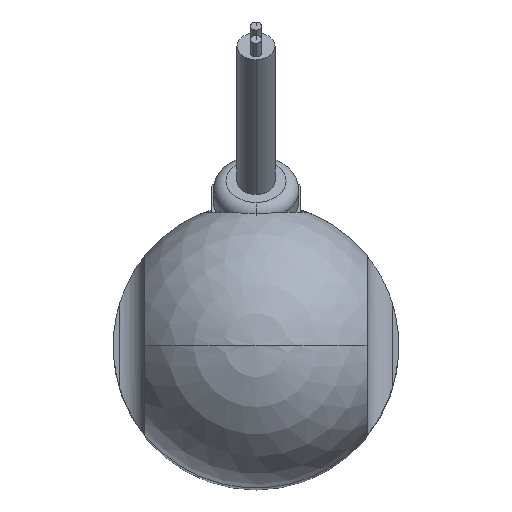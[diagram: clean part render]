
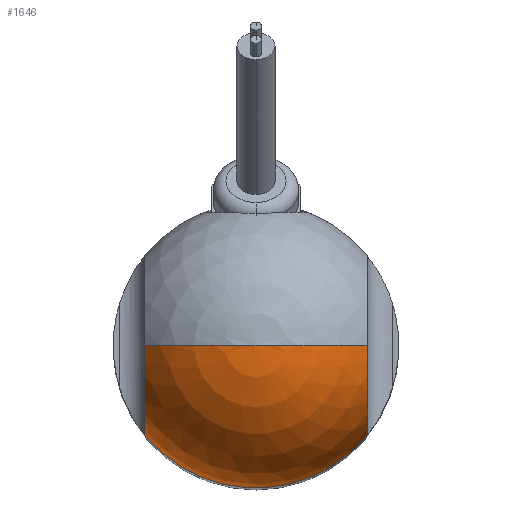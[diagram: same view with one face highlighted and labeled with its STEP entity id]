
A CAD part, top view. The second image highlights one B-rep face of the part: STEP entity #1646.
In plain terms, the highlighted spherical face has radius 22.5 mm.
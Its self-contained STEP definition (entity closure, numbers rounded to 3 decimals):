
#227=CARTESIAN_POINT('',(0.,0.,0.));
#228=DIRECTION('',(0.,0.,-1.));
#229=DIRECTION('',(0.778,-0.629,0.));
#230=AXIS2_PLACEMENT_3D('',#227,#228,#229);
#297=CARTESIAN_POINT('',(17.5,0.,0.));
#298=DIRECTION('',(-1.,0.,0.));
#299=DIRECTION('',(0.,-1.,0.));
#300=AXIS2_PLACEMENT_3D('',#297,#298,#299);
#302=CARTESIAN_POINT('',(-17.5,0.,0.));
#303=DIRECTION('',(1.,0.,0.));
#304=DIRECTION('',(0.,0.,1.));
#305=AXIS2_PLACEMENT_3D('',#302,#303,#304);
#307=CARTESIAN_POINT('',(0.,0.,0.));
#308=DIRECTION('',(0.,-1.,0.));
#309=DIRECTION('',(0.,0.,1.));
#310=AXIS2_PLACEMENT_3D('',#307,#308,#309);
#312=CARTESIAN_POINT('',(0.,0.,0.));
#313=DIRECTION('',(0.,1.,0.));
#314=DIRECTION('',(0.,0.,1.));
#315=AXIS2_PLACEMENT_3D('',#312,#313,#314);
#1133=CARTESIAN_POINT('',(17.5,0.,14.142));
#1135=VERTEX_POINT('',#1133);
#1138=CARTESIAN_POINT('',(-17.5,0.,14.142));
#1140=VERTEX_POINT('',#1138);
#1145=CARTESIAN_POINT('',(17.5,-14.142,0.));
#1146=VERTEX_POINT('',#1145);
#1147=CARTESIAN_POINT('',(-17.5,-14.142,0.));
#1148=VERTEX_POINT('',#1147);
#1153=CARTESIAN_POINT('',(0.,0.,22.5));
#1154=VERTEX_POINT('',#1153);
#1634=CARTESIAN_POINT('',(0.,0.,0.));
#1635=DIRECTION('',(0.,0.,1.));
#1636=DIRECTION('',(-1.,0.,0.));
#1637=AXIS2_PLACEMENT_3D('',#1634,#1635,#1636);
#1638=SPHERICAL_SURFACE('',#1637,22.5);
#1639=ORIENTED_EDGE('',*,*,#1527,.F.);
#1640=ORIENTED_EDGE('',*,*,#1577,.T.);
#1641=ORIENTED_EDGE('',*,*,#1622,.F.);
#1642=ORIENTED_EDGE('',*,*,#1497,.F.);
#1643=ORIENTED_EDGE('',*,*,#1495,.T.);
#1644=EDGE_LOOP('',(#1639,#1640,#1641,#1642,#1643));
#1645=FACE_OUTER_BOUND('',#1644,.F.);
#231=CIRCLE('',#230,22.5);
#301=CIRCLE('',#300,14.142);
#306=CIRCLE('',#305,14.142);
#311=CIRCLE('',#310,22.5);
#316=CIRCLE('',#315,22.5);
#1495=EDGE_CURVE('',#1154,#1135,#316,.T.);
#1497=EDGE_CURVE('',#1154,#1140,#311,.T.);
#1527=EDGE_CURVE('',#1146,#1135,#301,.T.);
#1577=EDGE_CURVE('',#1146,#1148,#231,.T.);
#1622=EDGE_CURVE('',#1140,#1148,#306,.T.);
#1646=ADVANCED_FACE('',(#1645),#1638,.T.);
